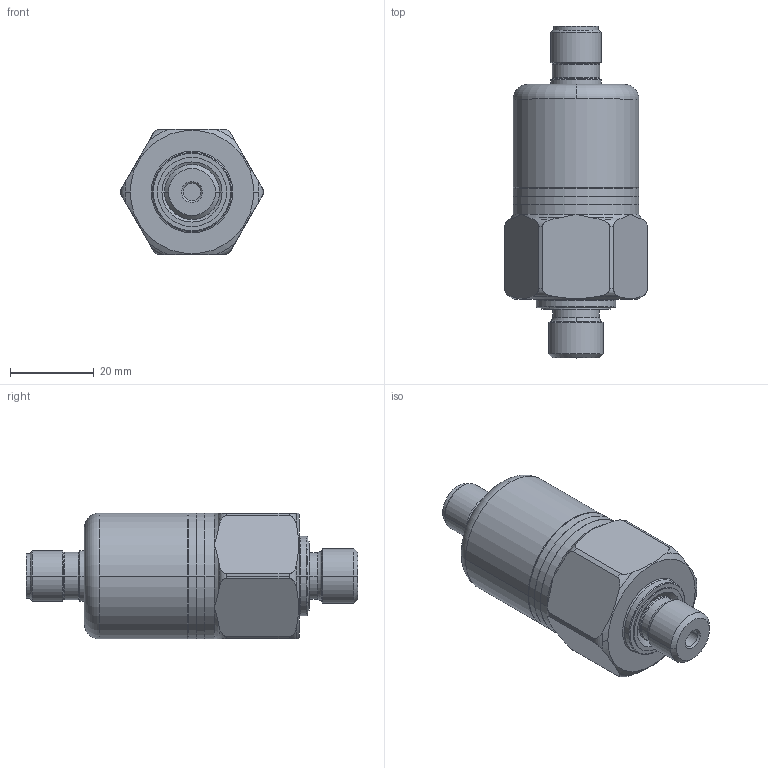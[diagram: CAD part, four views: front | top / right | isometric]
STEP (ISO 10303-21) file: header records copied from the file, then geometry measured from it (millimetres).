
FILE_DESCRIPTION( ( '' ), '1' );
FILE_NAME( '//partserver002.servicenet/client_exchange/iodir/jobs/output/wkb6669998_no2/STEP/pa3523_2_03.stp', '2007-03-28T07:33:06', ( '' ), ( '' ), ' ', ' ', ' ' );
FILE_SCHEMA( ( 'CONFIG_CONTROL_DESIGN' ) );
Length unit declared in the file: millimetre
Products named in the file (1): 1
Bounding box: 34 x 79.3 x 30.1 mm (x, y, z)
Volume: 19209.9 mm3; surface area: 12529 mm2
Topology: 1 solids, 1 shells, 170 faces, 419 edges, 267 vertices
Faces by surface type: cylinder 55, cone 44, torus 44, plane 27
Entity records: 5580 total; most frequent: CARTESIAN_POINT 1411, DIRECTION 954, ORIENTED_EDGE 838, AXIS2_PLACEMENT_3D 424, EDGE_CURVE 419, VERTEX_POINT 267, CIRCLE 253, EDGE_LOOP 186
